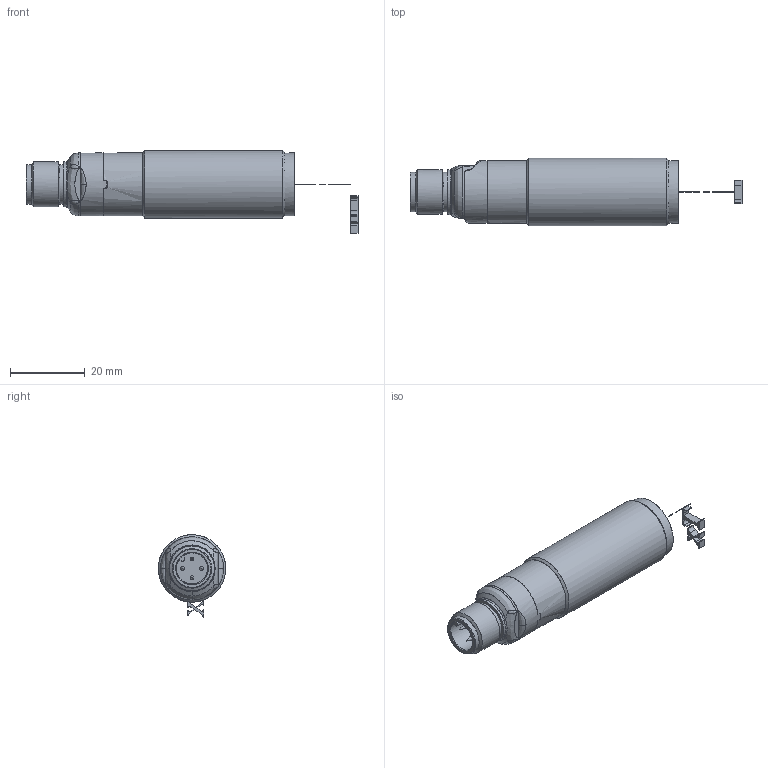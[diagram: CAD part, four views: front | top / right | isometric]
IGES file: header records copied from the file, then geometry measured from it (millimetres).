
Global section: file name: D:\TMP\DSD-0065.igs; preprocessor: I-DEAS 3D IGES Translator 11; date: 20060607.161538; units: millimetre
Bounding box: 88.6 x 17.98 x 22.05 mm (x, y, z)
Surface area: 8904.7 mm2
Topology: 4 solids, 4 shells, 199 faces, 980 edges, 879 vertices
Faces by surface type: bspline 199
